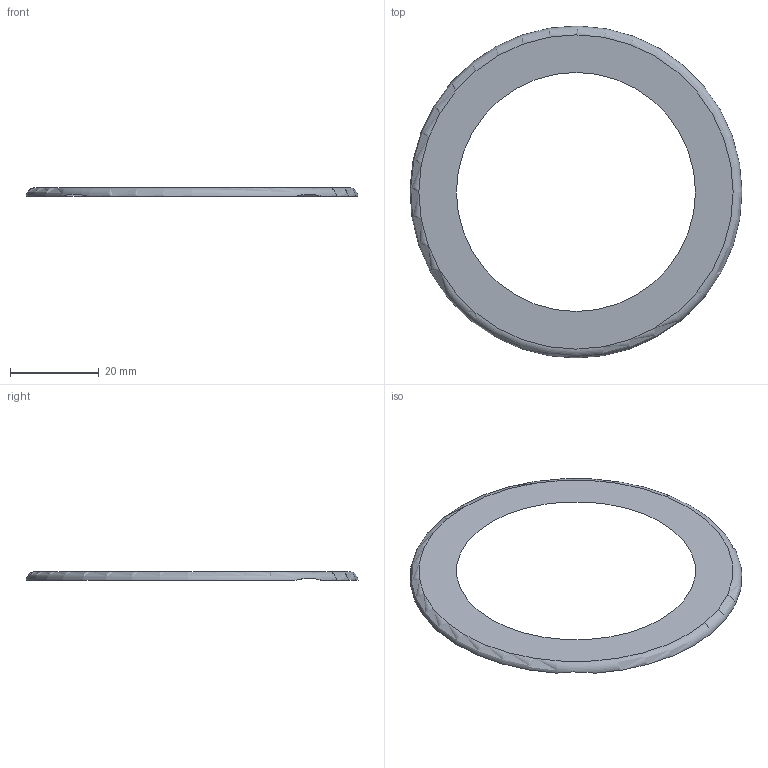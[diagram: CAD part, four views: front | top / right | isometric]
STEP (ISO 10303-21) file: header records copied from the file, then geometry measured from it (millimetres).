
FILE_DESCRIPTION(('BRL-CAD focused geometric regression fixture'),'2;1');
FILE_NAME('shared_periodic_edge','2026-07-24T00:00:00',('BRL-CAD'),('BRL-CAD'),'','','');
FILE_SCHEMA(('AUTOMOTIVE_DESIGN { 1 0 10303 214 3 1 1 1 }'));
Length unit declared in the file: millimetre
Products named in the file (1): shared_periodic_edge
Bounding box: 74.99 x 75 x 2 mm (x, y, z)
Surface area: 2388.9 mm2 (no closed solid volume)
Topology: 0 solids, 1 shells, 2 faces, 8 edges, 7 vertices
Faces by surface type: torus 1, plane 1
Entity records: 92 total; most frequent: CARTESIAN_POINT 24, DIRECTION 12, ORIENTED_EDGE 7, VERTEX_POINT 6, EDGE_CURVE 6, AXIS2_PLACEMENT_3D 6, EDGE_LOOP 4, CIRCLE 4
